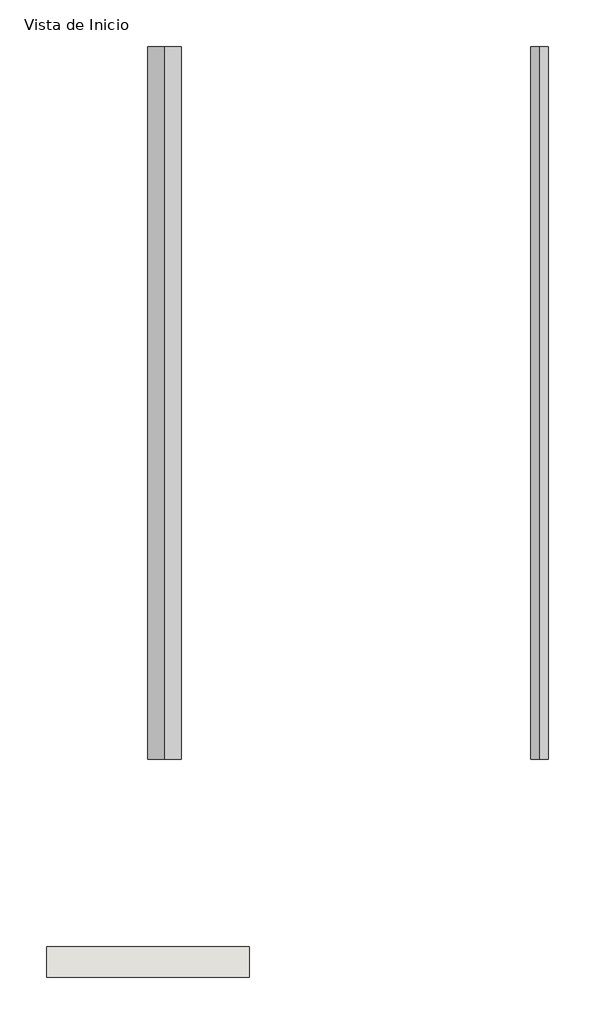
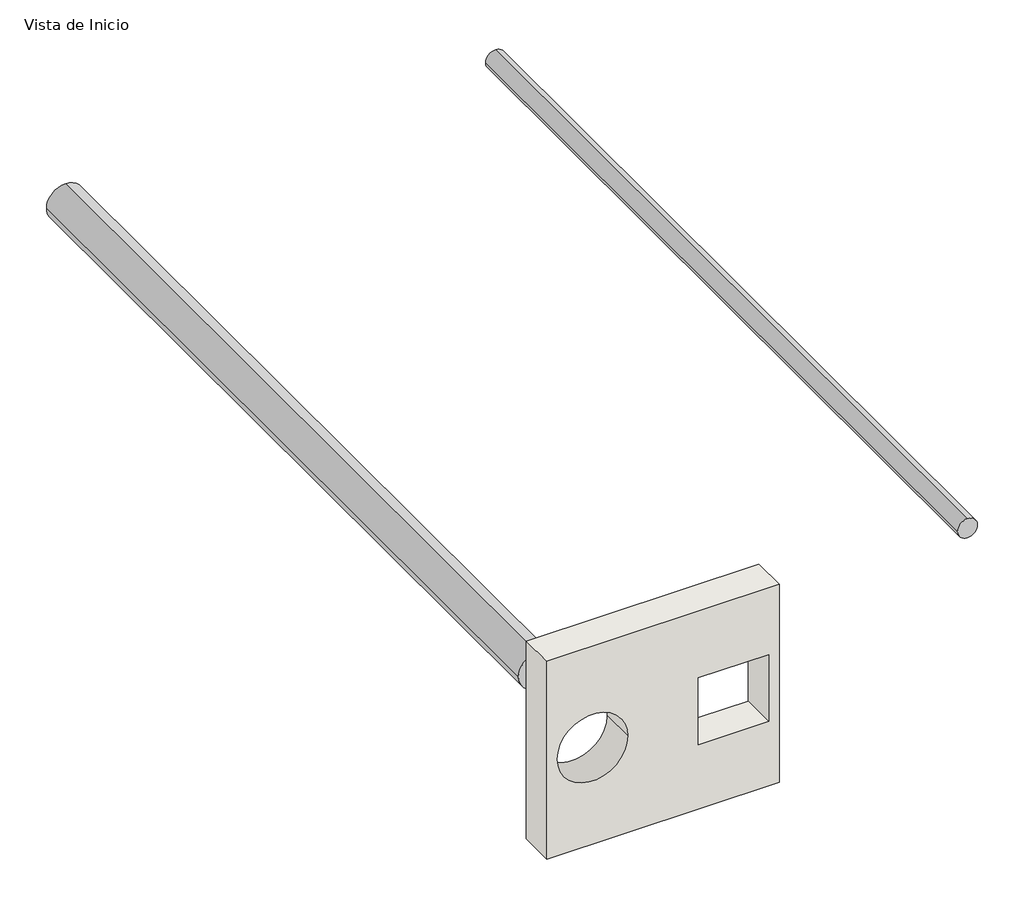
# One storey, incomplete: 2 pipe segments, 1 wall.
"""IFC4 building model written with IfcOpenShell, lengths in millimetres."""

from ifc_helpers import new_model, si_unit, point, frame, frame_2d, origin, place, context, project, spatial, polyline, circle_curve, trimmed, segment, composite_curve, outline, extrude, element, save

model = new_model("IFC4")

# Units and contexts
model_context = context("Model", 3, world=origin())
ifc_project = project(units=[si_unit("LENGTHUNIT", "METRE", prefix="MILLI")], contexts=[model_context])

# Site, building, storey
site = spatial("IfcSite", under=ifc_project)
building = spatial("IfcBuilding", under=site)
storey = spatial("IfcBuildingStorey", under=building, Name="Vista de Inicio", Elevation=0.0)

# Pipe segments
placement = place(None, origin())
element("IfcPipeSegment", 1, ObjectType="AmancoWavin_Tuberias_UltratempCPVCSDR11", at=placement, inside=storey, context=model_context, shape_type="SweptSolid", body=[
    extrude(outline(composite_curve([segment(trimmed(circle_curve(frame_2d((0.0, 1381.5967383)), 26.9875), [point((0.0, 1354.6092383))], [point((-26.9875, 1381.5967383))], False, "CARTESIAN"), True, "CONTINUOUS"), segment(trimmed(circle_curve(frame_2d((0.0, 1381.5967383)), 26.9875), [point((-26.9875, 1381.5967383))], [point((0.0, 1408.5842383))], False, "CARTESIAN"), True, "CONTINUOUS"), segment(trimmed(circle_curve(frame_2d((0.0, 1381.5967383)), 26.9875), [point((0.0, 1408.5842383))], [point((26.9875, 1381.5967383))], False, "CARTESIAN"), True, "CONTINUOUS"), segment(trimmed(circle_curve(frame_2d((0.0, 1381.5967383)), 26.9875), [point((26.9875, 1381.5967383))], [point((0.0, 1354.6092383))], False, "CARTESIAN"), True, "CONTINUOUS")], self_intersect=False)), frame((0.0, 803.3635801, 0.0), z_axis=(0.0, 1.0, 0.0), x_axis=(0.0, 0.0, 1.0)), (0.0, 0.0, 1.0), 1160.0),
])
element("IfcPipeSegment", 2, ObjectType="AmancoWavin_Tuberias_UltratempCPVCSDR13.5", at=placement, inside=storey, context=model_context, shape_type="SweptSolid", body=[
    extrude(outline(composite_curve([segment(trimmed(circle_curve(frame_2d((0.0, 1992.016559)), 14.2875), [point((0.0, 1977.729059))], [point((-14.2875, 1992.016559))], False, "CARTESIAN"), True, "CONTINUOUS"), segment(trimmed(circle_curve(frame_2d((0.0, 1992.016559)), 14.2875), [point((-14.2875, 1992.016559))], [point((0.0, 2006.304059))], False, "CARTESIAN"), True, "CONTINUOUS"), segment(trimmed(circle_curve(frame_2d((0.0, 1992.016559)), 14.2875), [point((0.0, 2006.304059))], [point((14.2875, 1992.016559))], False, "CARTESIAN"), True, "CONTINUOUS"), segment(trimmed(circle_curve(frame_2d((0.0, 1992.016559)), 14.2875), [point((14.2875, 1992.016559))], [point((0.0, 1977.729059))], False, "CARTESIAN"), True, "CONTINUOUS")], self_intersect=False)), frame((0.0, 803.3635801, 0.0), z_axis=(0.0, 1.0, 0.0), x_axis=(0.0, 0.0, 1.0)), (0.0, 0.0, 1.0), 1160.0),
])

# Wall
element("IfcWall", 3, ObjectType="Wall 1", at=placement, inside=storey, context=model_context, shape_type="SweptSolid", body=[
    extrude(outline(polyline([(0.0, 1189.561241), (0.0, 1519.561241), (296.5968372, 1519.561241), (296.5968372, 1189.561241), (0.0, 1189.561241)]), holes=[composite_curve([segment(trimmed(circle_curve(frame_2d((144.4282969, 1254.561241)), 50.0), [point((144.4282969, 1304.561241))], [point((144.4282969, 1204.561241))], True, "CARTESIAN"), True, "CONTINUOUS"), segment(trimmed(circle_curve(frame_2d((144.4282969, 1254.561241)), 50.0), [point((144.4282969, 1204.561241))], [point((144.4282969, 1304.561241))], True, "CARTESIAN"), True, "CONTINUOUS")], self_intersect=False), polyline([(96.4896004, 1504.561241), (96.4896004, 1404.561241), (196.4896004, 1404.561241), (196.4896004, 1504.561241), (96.4896004, 1504.561241)])]), frame((0.0, 447.7958034, 0.0), z_axis=(0.0, 1.0, 0.0), x_axis=(0.0, 0.0, 1.0)), (0.0, 0.0, 1.0), 50.0),
])

save(model, "model.ifc")
